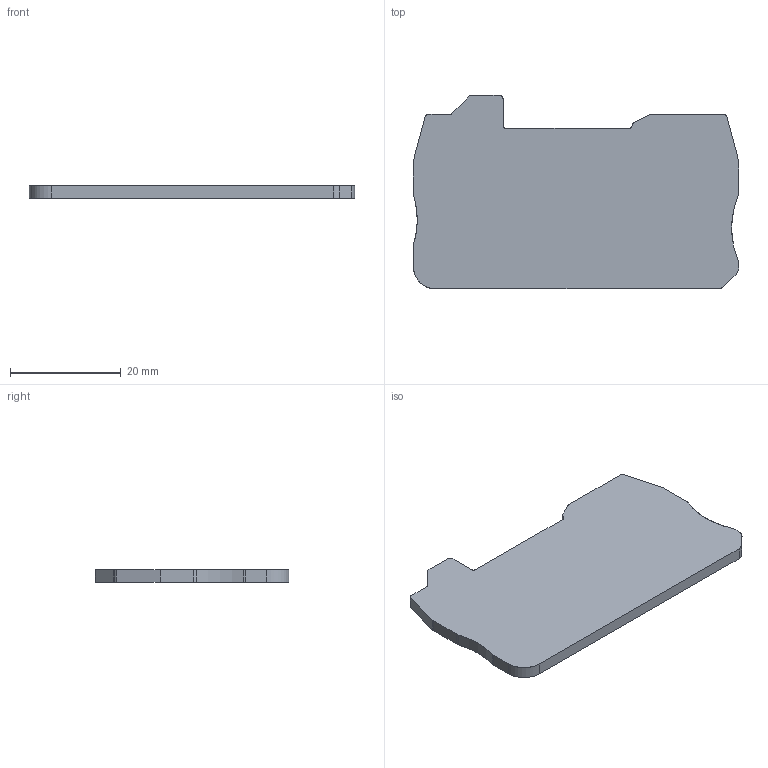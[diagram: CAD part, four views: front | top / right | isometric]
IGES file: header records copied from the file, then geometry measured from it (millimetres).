
Global section: file name: 3206283_d-qtcu_15_select.igs; native system: OneSpace Designer 3D IGES; preprocessor: 12.01C  26-Mar-2004; date: 20041015.143720; units: millimetre
Bounding box: 58.8 x 35.05 x 2.2 mm (x, y, z)
Surface area: 3962.6 mm2 (no closed solid volume)
Topology: 0 solids, 0 shells, 38 faces, 298 edges, 298 vertices
Faces by surface type: bspline 38
